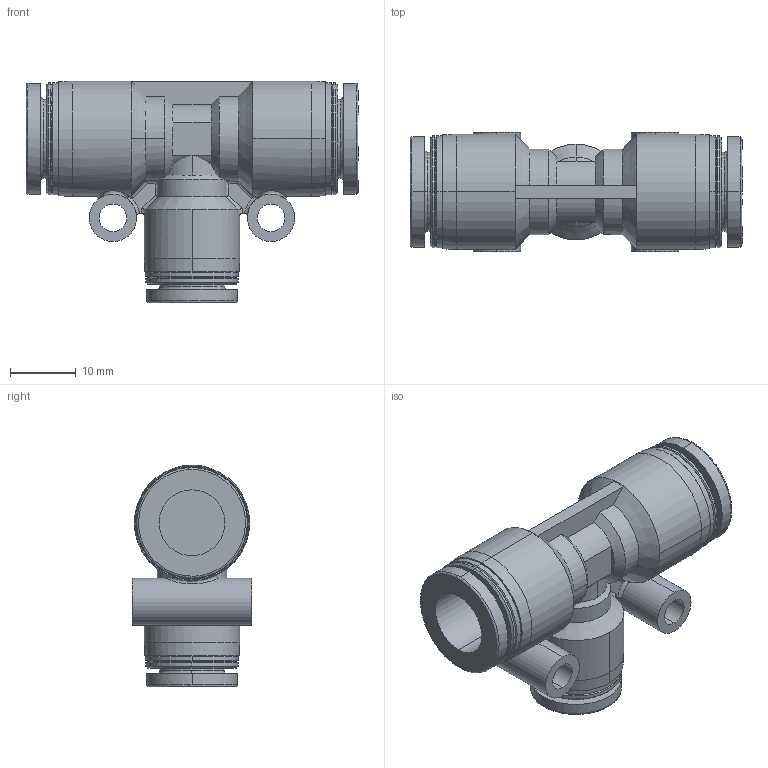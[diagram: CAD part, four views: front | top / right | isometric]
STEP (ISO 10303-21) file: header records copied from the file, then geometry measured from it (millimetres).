
FILE_DESCRIPTION (( 'STEP AP214' ), '1' );
FILE_NAME ('APEG10-8.STEP', '2019-12-05T08:31:22', ( '微软用户' ), ( '微软中国' ), 'SwSTEP 2.0', 'SolidWorks 2016', '' );
FILE_SCHEMA (( 'AUTOMOTIVE_DESIGN' ));
Length unit declared in the file: millimetre
Products named in the file (1): APEG10-8
Bounding box: 50.4 x 18.2 x 33.65 mm (x, y, z)
Volume: 9446.6 mm3; surface area: 7660.3 mm2
Topology: 1 solids, 1 shells, 186 faces, 471 edges, 299 vertices
Faces by surface type: cylinder 78, cone 46, plane 34, bspline 28
Entity records: 8624 total; most frequent: CARTESIAN_POINT 4352, ORIENTED_EDGE 942, DIRECTION 832, EDGE_CURVE 471, AXIS2_PLACEMENT_3D 345, VERTEX_POINT 299, EDGE_LOOP 202, CIRCLE 186
